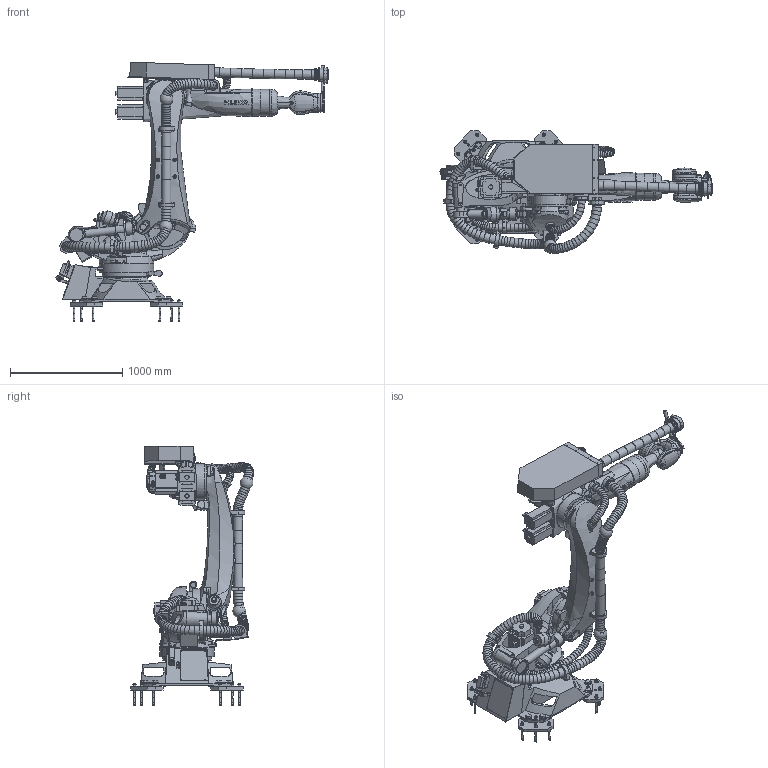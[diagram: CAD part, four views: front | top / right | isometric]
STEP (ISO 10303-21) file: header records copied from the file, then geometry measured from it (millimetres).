
FILE_DESCRIPTION(/* description */ (''),/* implementation_level */ '2;1');
FILE_NAME(/* name */ 'KR120 R2700 HA.stp',/* time_stamp */ '2016-05-17T14:00:51+02:00',/* author */ (''),/* organization */ (''),/* preprocessor_version */ 'ST-DEVELOPER v15',/* originating_system */ 'SIEMENS PLM Software NX 9.0',/* authorisation */ '');
FILE_SCHEMA (('AUTOMOTIVE_DESIGN { 1 0 10303 214 3 1 1 1 }'));
Products named in the file (1): KR120 R2700 HA
Bounding box: 2428.38 x 1096.99 x 2317.66 mm (x, y, z)
Volume: 467340696.9 mm3; surface area: 16503899.3 mm2
Topology: 96 solids, 109 shells, 3359 faces, 8172 edges, 5319 vertices
Faces by surface type: plane 1789, cylinder 697, torus 295, cone 241, bspline 239, extrusion 83, sphere 10, revolution 5
Full cylindrical faces by diameter (mm): 3.05 x1, 5 x3, 6 x5, 6.4 x4, 6.6 x4, 6.8 x18, 7 x16, 8 x21, 8.5 x2, 9 x26, 10 x20, 11 x4, 12 x9, 13 x4, 14 x7, 15 x6, 16 x36, 18 x16, 20 x18, 21 x3, 23 x2, 24 x17, 25 x3, 28 x13, 29 x1, 30 x23, 37 x5, 39 x4, 45 x4, 46.5 x1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
Entity records: 153190 total; most frequent: CARTESIAN_POINT 61591, ORIENTED_EDGE 14132, DIRECTION 13815, EDGE_CURVE 7066, AXIS2_PLACEMENT_3D 5098, VERTEX_POINT 5062, EDGE_LOOP 4744, VECTOR 3614
